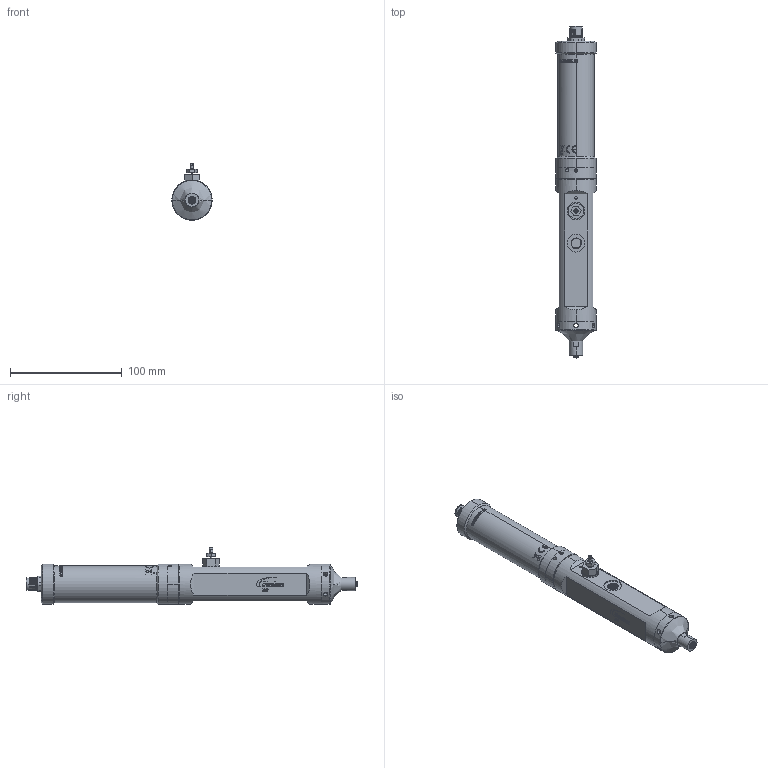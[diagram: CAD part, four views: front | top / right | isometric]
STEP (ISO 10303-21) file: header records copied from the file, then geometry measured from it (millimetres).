
FILE_DESCRIPTION (( 'STEP AP214' ), '1' );
FILE_NAME ('NORDSONEFD-7364199 PUMP, 1K, 797PCP, 0.15CCREV,. FFKM.STEP', '2020-03-29T22:06:38', ( '' ), ( '' ), 'SwSTEP 2.0', 'SolidWorks 2019', '' );
FILE_SCHEMA (( 'AUTOMOTIVE_DESIGN' ));
Length unit declared in the file: inch
Products named in the file (1): NORDSONEFD-7364199  PUMP, 1K, 797PCP, 0.15CCREV,. FFKM
Bounding box: 36 x 297.63 x 50.55 mm (x, y, z)
Surface area: 35902.2 mm2 (no closed solid volume)
Topology: 0 solids, 25 shells, 507 faces, 1970 edges, 1533 vertices
Faces by surface type: cylinder 256, plane 125, bspline 70, cone 28, sphere 14, torus 14
Entity records: 56139 total; most frequent: CARTESIAN_POINT 39784, ORIENTED_EDGE 3434, DIRECTION 2121, EDGE_CURVE 1942, VERTEX_POINT 1519, AXIS2_PLACEMENT_3D 748, LINE 625, VECTOR 625
